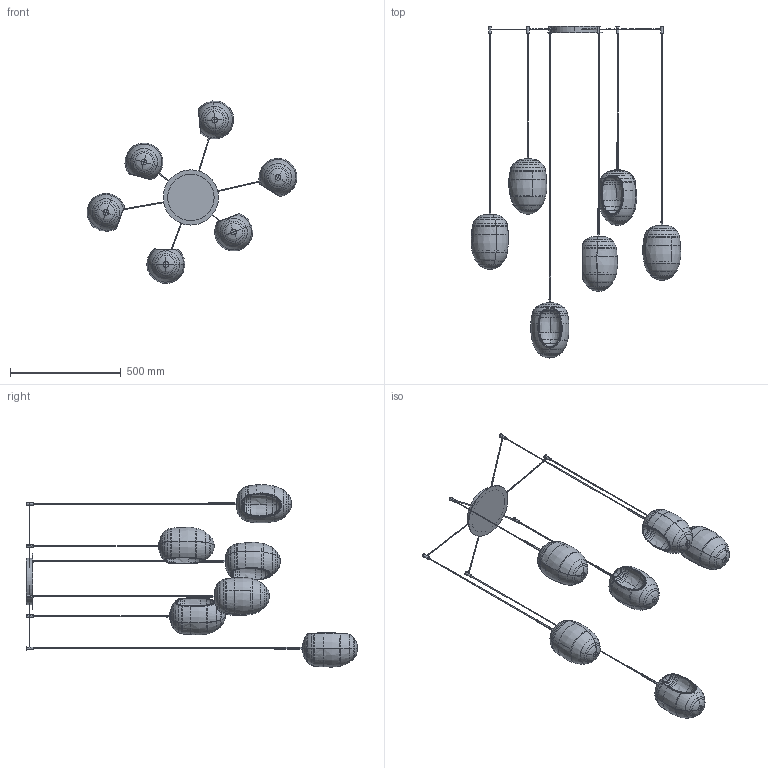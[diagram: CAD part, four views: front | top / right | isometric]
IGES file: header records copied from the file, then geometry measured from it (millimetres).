
Start section: SolidWorks IGES file using analytic representation for surfaces
Global section: file name: Y:\eforma\TECNICO\SOLIDWORKS\E-FORMA\09-LAMPADE\FOS\02 parts\FOS06_6 sospensione.IGS; native system: SolidWorks 2022; preprocessor: SolidWorks 2022; author: eforma.tech; date: 250519.091206; units: millimetre
Bounding box: 948.42 x 1500.54 x 824.85 mm (x, y, z)
Volume: 3494832.3 mm3; surface area: 2072993.1 mm2
Topology: 61 solids, 61 shells, 1393 faces, 3332 edges, 2050 vertices
Faces by surface type: revolution 898, plane 363, bspline 132
